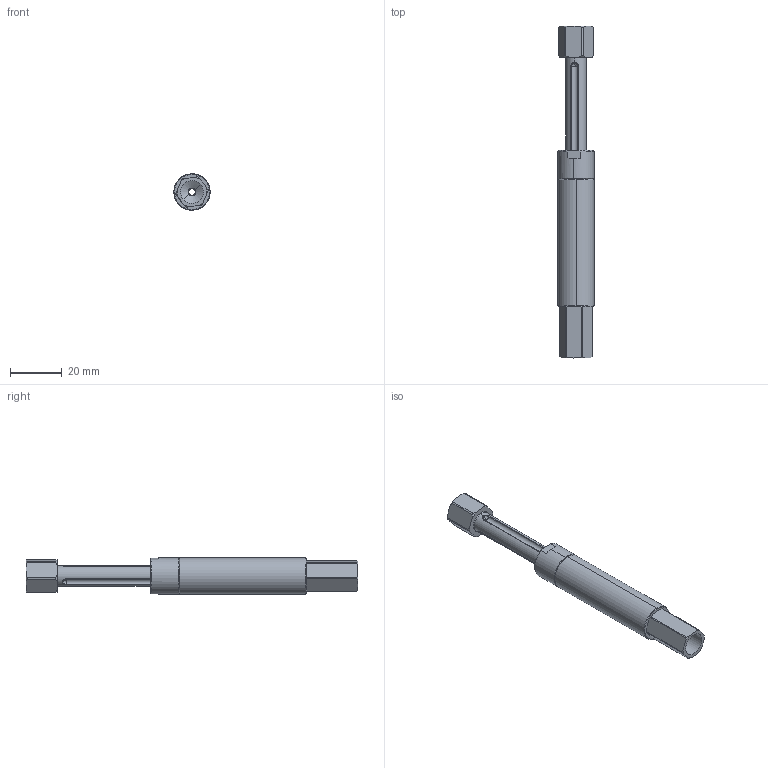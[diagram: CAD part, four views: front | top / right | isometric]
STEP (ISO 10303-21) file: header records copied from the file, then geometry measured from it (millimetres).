
FILE_DESCRIPTION (( 'STEP AP214' ), '1' );
FILE_NAME ('VFN1436-G18.STEP', '2019-12-03T02:04:48', ( '微软用户' ), ( '微软中国' ), 'SwSTEP 2.0', 'SolidWorks 2016', '' );
FILE_SCHEMA (( 'AUTOMOTIVE_DESIGN' ));
Length unit declared in the file: millimetre
Products named in the file (1): VFN1436-G18
Bounding box: 14 x 128 x 14 mm (x, y, z)
Volume: 12439.8 mm3; surface area: 10946 mm2
Topology: 4 solids, 4 shells, 289 faces, 649 edges, 380 vertices
Faces by surface type: cone 128, cylinder 99, plane 42, sphere 12, bspline 6, torus 2
Entity records: 13898 total; most frequent: CARTESIAN_POINT 4293, DIRECTION 1409, ORIENTED_EDGE 1298, EDGE_CURVE 649, AXIS2_PLACEMENT_3D 576, VERTEX_POINT 380, EDGE_LOOP 315, CIRCLE 292
